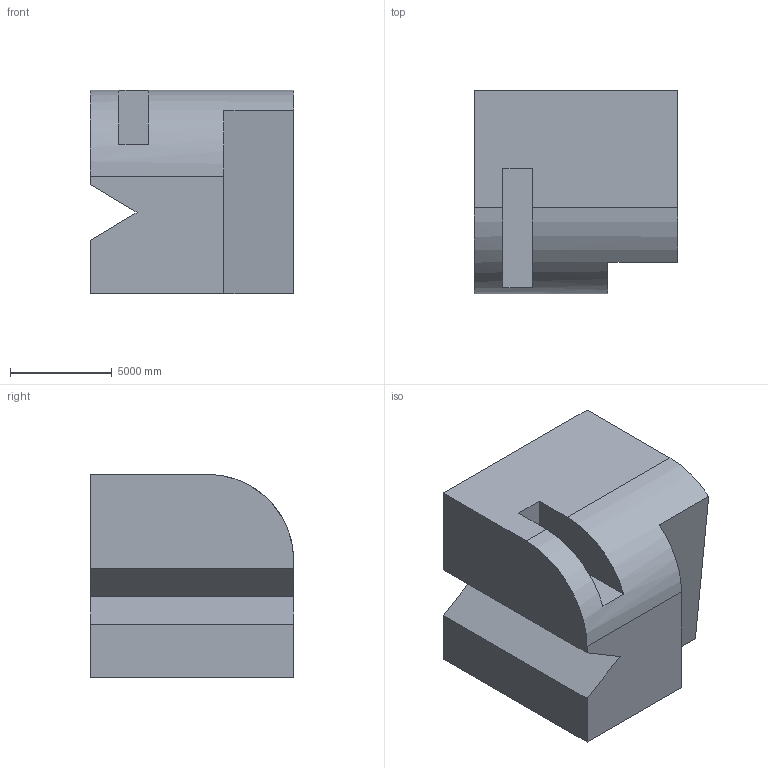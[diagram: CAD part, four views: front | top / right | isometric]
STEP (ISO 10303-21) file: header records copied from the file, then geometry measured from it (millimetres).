
FILE_DESCRIPTION (( 'STEP AP203' ), '1' );
FILE_NAME ('1380.STEP', '2022-08-18T14:08:43', ( 'user' ), ( '' ), 'SwSTEP 2.0', 'SolidWorks 2021', '' );
FILE_SCHEMA (( 'CONFIG_CONTROL_DESIGN' ));
Length unit declared in the file: centimetre
Products named in the file (1): 1380
Bounding box: 10000 x 10000 x 10000 mm (x, y, z)
Volume: 854766875598.4 mm3; surface area: 611785826.5 mm2
Topology: 1 solids, 1 shells, 16 faces, 42 edges, 28 vertices
Faces by surface type: plane 15, cylinder 1
Entity records: 568 total; most frequent: CARTESIAN_POINT 87, ORIENTED_EDGE 84, DIRECTION 81, EDGE_CURVE 42, LINE 37, VECTOR 37, VERTEX_POINT 28, AXIS2_PLACEMENT_3D 22
